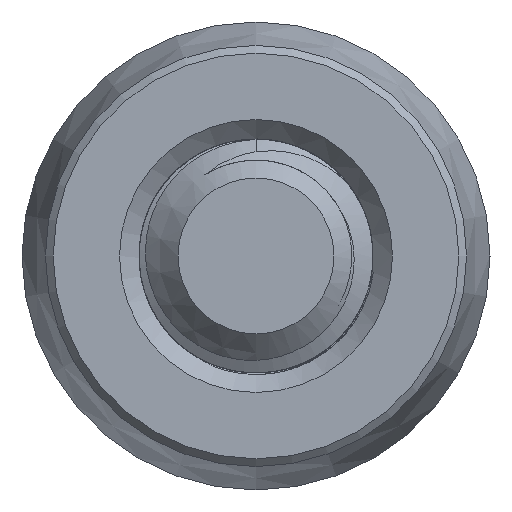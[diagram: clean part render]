
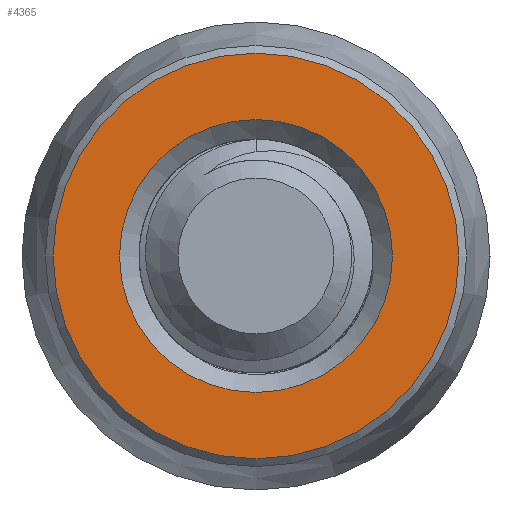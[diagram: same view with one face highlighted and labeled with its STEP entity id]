
A CAD part, front view. The second image highlights one B-rep face of the part: STEP entity #4365.
In plain terms, the highlighted planar face has unit normal (0, -1, 0).
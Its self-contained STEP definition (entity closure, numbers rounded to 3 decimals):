
#122 = AXIS2_PLACEMENT_3D ( 'NONE', #5106, #8624, #363 ) ;
#311 = EDGE_CURVE ( 'NONE', #5553, #5553, #4002, .T. ) ;
#363 = DIRECTION ( 'NONE',  ( 0., 0., 1. ) ) ;
#419 = DIRECTION ( 'NONE',  ( 0., -1., 0. ) ) ;
#533 = VERTEX_POINT ( 'NONE', #8386 ) ;
#767 = FACE_OUTER_BOUND ( 'NONE', #6856, .T. ) ;
#1295 = AXIS2_PLACEMENT_3D ( 'NONE', #8451, #1542, #7737 ) ;
#1448 = CARTESIAN_POINT ( 'NONE',  ( 0., 0., 1.75 ) ) ;
#1542 = DIRECTION ( 'NONE',  ( 0., 1., 0. ) ) ;
#1661 = EDGE_LOOP ( 'NONE', ( #5259 ) ) ;
#2391 = PLANE ( 'NONE',  #122 ) ;
#3499 = EDGE_CURVE ( 'NONE', #533, #533, #3747, .T. ) ;
#3747 = CIRCLE ( 'NONE', #7375, 2.6 ) ;
#4002 = CIRCLE ( 'NONE', #1295, 1.75 ) ;
#4112 = FACE_BOUND ( 'NONE', #1661, .T. ) ;
#4365 = ADVANCED_FACE ( 'NONE', ( #4112, #767 ), #2391, .F. ) ;
#4716 = ORIENTED_EDGE ( 'NONE', *, *, #3499, .T. ) ;
#5106 = CARTESIAN_POINT ( 'NONE',  ( -2.7, 0., 0. ) ) ;
#5222 = DIRECTION ( 'NONE',  ( 0., 0., 1. ) ) ;
#5259 = ORIENTED_EDGE ( 'NONE', *, *, #311, .T. ) ;
#5553 = VERTEX_POINT ( 'NONE', #1448 ) ;
#6856 = EDGE_LOOP ( 'NONE', ( #4716 ) ) ;
#7375 = AXIS2_PLACEMENT_3D ( 'NONE', #8647, #419, #5222 ) ;
#7737 = DIRECTION ( 'NONE',  ( 0., 0., 1. ) ) ;
#8386 = CARTESIAN_POINT ( 'NONE',  ( 0., 0., 2.6 ) ) ;
#8451 = CARTESIAN_POINT ( 'NONE',  ( 0., 0., 0. ) ) ;
#8624 = DIRECTION ( 'NONE',  ( 0., 1., 0. ) ) ;
#8647 = CARTESIAN_POINT ( 'NONE',  ( 0., 0., 0. ) ) ;
